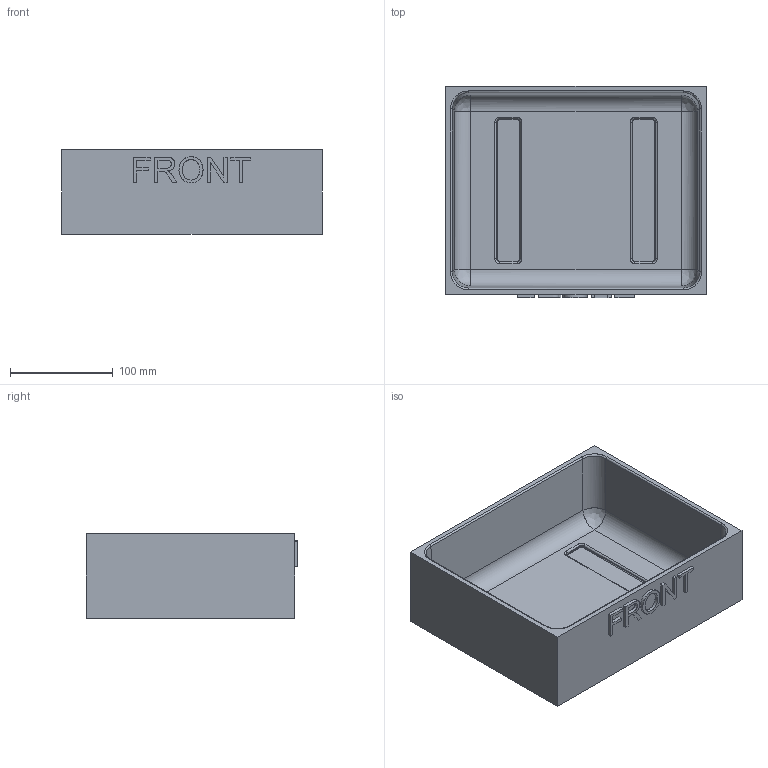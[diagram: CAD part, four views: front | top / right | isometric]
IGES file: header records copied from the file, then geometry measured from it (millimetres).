
Start section: Comment
Global section: file name: 2050-base_internal_tub.igs; native system:  By UGS Corp.; preprocessor: XPlus GENERIC/IGES 3.0; author: Author; organization: Title; date: 20100512.134705; units: millimetre
Bounding box: 254 x 206.38 x 82.55 mm (x, y, z)
Surface area: 237018.4 mm2 (no closed solid volume)
Topology: 0 solids, 0 shells, 129 faces, 698 edges, 694 vertices
Faces by surface type: bspline 129
